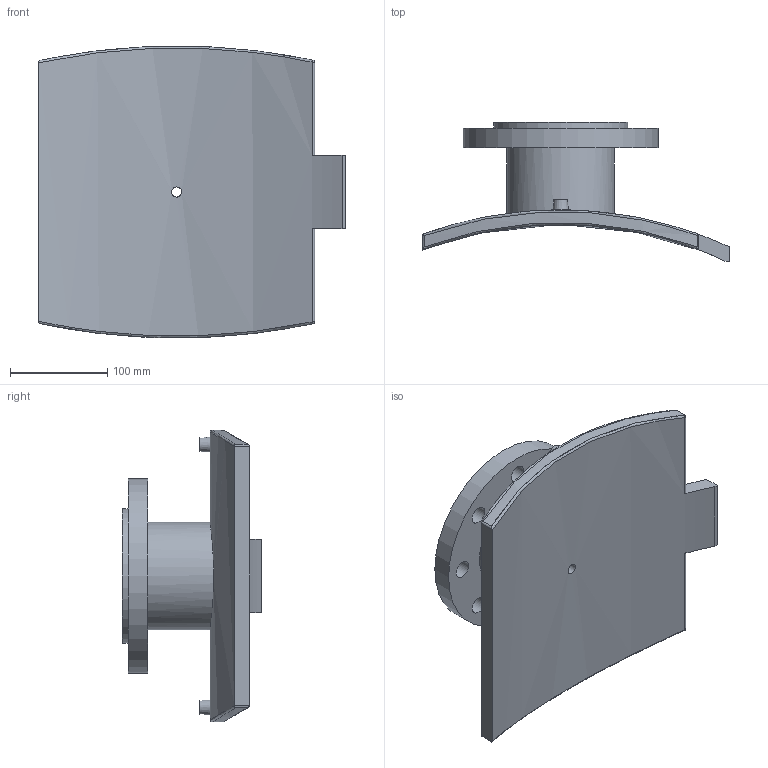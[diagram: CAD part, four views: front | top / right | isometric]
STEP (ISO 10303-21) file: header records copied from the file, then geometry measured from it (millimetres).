
FILE_DESCRIPTION(/* description */ ('PLASSON FLANGED BRANCH SADDLE 450-800X80'),/* implementation_level */ '2;1');
FILE_NAME(/* name */ 'C:\Dropbox\KIMPROJECTS-Inventor 2019\99-16-3568-Processing\ElectroFusion Fittings\495904_495903\stp\495904710080T.stp',/* time_stamp */ '2024-04-03T21:00:27+02:00',/* author */ ('KIM'),/* organization */ (''),/* preprocessor_version */ 'ST-DEVELOPER v17.2',/* originating_system */ 'Autodesk Inventor 2019',/* authorisation */ '');
FILE_SCHEMA (('AUTOMOTIVE_DESIGN { 1 0 10303 214 3 1 1 }'));
Length unit declared in the file: millimetre
Products named in the file (1): 495904710080T
Bounding box: 315 x 142.89 x 299.55 mm (x, y, z)
Volume: 2148828.2 mm3; surface area: 307826.4 mm2
Topology: 1 solids, 1 shells, 58 faces, 151 edges, 118 vertices
Faces by surface type: cylinder 31, plane 17, sphere 4, bspline 4, cone 2
Full cylindrical faces by diameter (mm): 4 x2, 10 x2, 10.4 x1, 16 x1, 18 x8, 80 x1, 110.4 x1, 138 x1, 200 x1
Entity records: 2357 total; most frequent: CARTESIAN_POINT 861, DIRECTION 297, ORIENTED_EDGE 274, EDGE_CURVE 137, AXIS2_PLACEMENT_3D 125, VERTEX_POINT 92, EDGE_LOOP 87, CIRCLE 70
